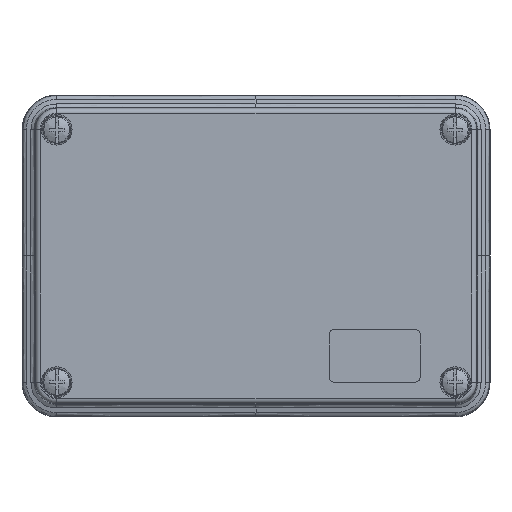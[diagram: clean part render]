
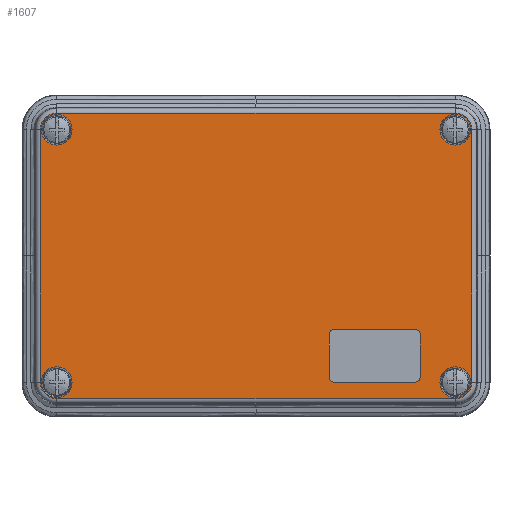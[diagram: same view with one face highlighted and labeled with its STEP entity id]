
A CAD part, top view. The second image highlights one B-rep face of the part: STEP entity #1607.
In plain terms, the highlighted planar face has unit normal (0, 0, 1).
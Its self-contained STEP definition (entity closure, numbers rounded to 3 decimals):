
#766=FACE_BOUND('',#3238,.T.);
#767=FACE_BOUND('',#3239,.T.);
#768=FACE_BOUND('',#3240,.T.);
#769=FACE_BOUND('',#3241,.T.);
#770=FACE_BOUND('',#3242,.T.);
#771=FACE_BOUND('',#3243,.T.);
#1059=CIRCLE('',#11943,1.5);
#1060=CIRCLE('',#11944,1.5);
#1061=CIRCLE('',#11945,1.5);
#1062=CIRCLE('',#11946,1.5);
#1063=CIRCLE('',#11947,4.219);
#1064=CIRCLE('',#11948,4.534);
#1065=CIRCLE('',#11949,4.534);
#1066=CIRCLE('',#11950,4.534);
#1067=CIRCLE('',#11951,4.534);
#1068=CIRCLE('',#11952,4.219);
#1069=CIRCLE('',#11953,4.219);
#1070=CIRCLE('',#11954,4.219);
#1607=ADVANCED_FACE('',(#766,#767,#768,#769,#770,#771),#2318,.F.);
#2318=PLANE('',#11955);
#3238=EDGE_LOOP('',(#4199,#4200,#4201,#4202,#4203,#4204,#4205,#4206));
#3239=EDGE_LOOP('',(#4207));
#3240=EDGE_LOOP('',(#4208,#4209,#4210,#4211,#4212,#4213,#4214,#4215));
#3241=EDGE_LOOP('',(#4216));
#3242=EDGE_LOOP('',(#4217));
#3243=EDGE_LOOP('',(#4218));
#4199=ORIENTED_EDGE('',*,*,#8643,.F.);
#4200=ORIENTED_EDGE('',*,*,#8644,.F.);
#4201=ORIENTED_EDGE('',*,*,#8645,.F.);
#4202=ORIENTED_EDGE('',*,*,#8646,.F.);
#4203=ORIENTED_EDGE('',*,*,#8647,.F.);
#4204=ORIENTED_EDGE('',*,*,#8648,.F.);
#4205=ORIENTED_EDGE('',*,*,#8649,.F.);
#4206=ORIENTED_EDGE('',*,*,#8650,.F.);
#4207=ORIENTED_EDGE('',*,*,#8651,.T.);
#4208=ORIENTED_EDGE('',*,*,#8652,.T.);
#4209=ORIENTED_EDGE('',*,*,#8653,.T.);
#4210=ORIENTED_EDGE('',*,*,#8654,.T.);
#4211=ORIENTED_EDGE('',*,*,#8655,.T.);
#4212=ORIENTED_EDGE('',*,*,#8656,.T.);
#4213=ORIENTED_EDGE('',*,*,#8657,.T.);
#4214=ORIENTED_EDGE('',*,*,#8658,.T.);
#4215=ORIENTED_EDGE('',*,*,#8659,.T.);
#4216=ORIENTED_EDGE('',*,*,#8660,.T.);
#4217=ORIENTED_EDGE('',*,*,#8661,.T.);
#4218=ORIENTED_EDGE('',*,*,#8662,.T.);
#7523=VERTEX_POINT('',#17095);
#7524=VERTEX_POINT('',#17096);
#7525=VERTEX_POINT('',#17098);
#7526=VERTEX_POINT('',#17100);
#7527=VERTEX_POINT('',#17102);
#7528=VERTEX_POINT('',#17104);
#7529=VERTEX_POINT('',#17106);
#7530=VERTEX_POINT('',#17108);
#7531=VERTEX_POINT('',#17111);
#7532=VERTEX_POINT('',#17113);
#7533=VERTEX_POINT('',#17114);
#7534=VERTEX_POINT('',#17116);
#7535=VERTEX_POINT('',#17118);
#7536=VERTEX_POINT('',#17120);
#7537=VERTEX_POINT('',#17122);
#7538=VERTEX_POINT('',#17124);
#7539=VERTEX_POINT('',#17126);
#7540=VERTEX_POINT('',#17129);
#7541=VERTEX_POINT('',#17131);
#7542=VERTEX_POINT('',#17133);
#8643=EDGE_CURVE('',#7523,#7524,#10263,.T.);
#8644=EDGE_CURVE('',#7525,#7523,#1059,.T.);
#8645=EDGE_CURVE('',#7526,#7525,#10264,.T.);
#8646=EDGE_CURVE('',#7527,#7526,#1060,.T.);
#8647=EDGE_CURVE('',#7528,#7527,#10265,.T.);
#8648=EDGE_CURVE('',#7529,#7528,#1061,.T.);
#8649=EDGE_CURVE('',#7530,#7529,#10266,.T.);
#8650=EDGE_CURVE('',#7524,#7530,#1062,.T.);
#8651=EDGE_CURVE('',#7531,#7531,#1063,.T.);
#8652=EDGE_CURVE('',#7532,#7533,#1064,.T.);
#8653=EDGE_CURVE('',#7533,#7534,#10267,.T.);
#8654=EDGE_CURVE('',#7534,#7535,#1065,.T.);
#8655=EDGE_CURVE('',#7535,#7536,#10268,.T.);
#8656=EDGE_CURVE('',#7536,#7537,#1066,.T.);
#8657=EDGE_CURVE('',#7537,#7538,#10269,.T.);
#8658=EDGE_CURVE('',#7538,#7539,#1067,.T.);
#8659=EDGE_CURVE('',#7539,#7532,#10270,.T.);
#8660=EDGE_CURVE('',#7540,#7540,#1068,.T.);
#8661=EDGE_CURVE('',#7541,#7541,#1069,.T.);
#8662=EDGE_CURVE('',#7542,#7542,#1070,.T.);
#10263=LINE('',#17094,#11109);
#10264=LINE('',#17099,#11110);
#10265=LINE('',#17103,#11111);
#10266=LINE('',#17107,#11112);
#10267=LINE('',#17115,#11113);
#10268=LINE('',#17119,#11114);
#10269=LINE('',#17123,#11115);
#10270=LINE('',#17127,#11116);
#11109=VECTOR('',#13294,1.);
#11110=VECTOR('',#13297,1.);
#11111=VECTOR('',#13300,1.);
#11112=VECTOR('',#13303,1.);
#11113=VECTOR('',#13310,1.);
#11114=VECTOR('',#13313,1.);
#11115=VECTOR('',#13316,1.);
#11116=VECTOR('',#13319,1.);
#11943=AXIS2_PLACEMENT_3D('',#17097,#13295,#13296);
#11944=AXIS2_PLACEMENT_3D('',#17101,#13298,#13299);
#11945=AXIS2_PLACEMENT_3D('',#17105,#13301,#13302);
#11946=AXIS2_PLACEMENT_3D('',#17109,#13304,#13305);
#11947=AXIS2_PLACEMENT_3D('',#17110,#13306,#13307);
#11948=AXIS2_PLACEMENT_3D('',#17112,#13308,#13309);
#11949=AXIS2_PLACEMENT_3D('',#17117,#13311,#13312);
#11950=AXIS2_PLACEMENT_3D('',#17121,#13314,#13315);
#11951=AXIS2_PLACEMENT_3D('',#17125,#13317,#13318);
#11952=AXIS2_PLACEMENT_3D('',#17128,#13320,#13321);
#11953=AXIS2_PLACEMENT_3D('',#17130,#13322,#13323);
#11954=AXIS2_PLACEMENT_3D('',#17132,#13324,#13325);
#11955=AXIS2_PLACEMENT_3D('',#17134,#13326,#13327);
#13294=DIRECTION('',(-1.,0.,0.));
#13295=DIRECTION('',(0.,0.,1.));
#13296=DIRECTION('',(-1.,0.,0.));
#13297=DIRECTION('',(0.,1.,0.));
#13298=DIRECTION('',(0.,0.,1.));
#13299=DIRECTION('',(-1.,0.,0.));
#13300=DIRECTION('',(1.,0.,0.));
#13301=DIRECTION('',(0.,0.,1.));
#13302=DIRECTION('',(-1.,0.,0.));
#13303=DIRECTION('',(0.,-1.,0.));
#13304=DIRECTION('',(0.,0.,1.));
#13305=DIRECTION('',(-1.,0.,0.));
#13306=DIRECTION('',(0.,0.,-1.));
#13307=DIRECTION('',(-1.,0.,0.));
#13308=DIRECTION('',(0.,0.,1.));
#13309=DIRECTION('',(-1.,0.,0.));
#13310=DIRECTION('',(0.,-1.,0.));
#13311=DIRECTION('',(0.,0.,1.));
#13312=DIRECTION('',(-1.,0.,0.));
#13313=DIRECTION('',(1.,0.,0.));
#13314=DIRECTION('',(0.,0.,1.));
#13315=DIRECTION('',(1.,0.,0.));
#13316=DIRECTION('',(0.,1.,0.));
#13317=DIRECTION('',(0.,0.,1.));
#13318=DIRECTION('',(1.,0.,0.));
#13319=DIRECTION('',(-1.,0.,0.));
#13320=DIRECTION('',(0.,0.,-1.));
#13321=DIRECTION('',(1.,0.,0.));
#13322=DIRECTION('',(0.,0.,-1.));
#13323=DIRECTION('',(-1.,0.,0.));
#13324=DIRECTION('',(0.,0.,-1.));
#13325=DIRECTION('',(1.,0.,0.));
#13326=DIRECTION('',(0.,0.,-1.));
#13327=DIRECTION('',(-1.,0.,0.));
#17094=CARTESIAN_POINT('',(-54.6,-20.104,56.3));
#17095=CARTESIAN_POINT('',(43.505,-20.104,56.3));
#17096=CARTESIAN_POINT('',(21.505,-20.104,56.3));
#17097=CARTESIAN_POINT('',(43.505,-21.604,56.3));
#17098=CARTESIAN_POINT('',(45.005,-21.604,56.3));
#17099=CARTESIAN_POINT('',(45.005,34.6,56.3));
#17100=CARTESIAN_POINT('',(45.005,-33.104,56.3));
#17101=CARTESIAN_POINT('',(43.505,-33.104,56.3));
#17102=CARTESIAN_POINT('',(43.505,-34.604,56.3));
#17103=CARTESIAN_POINT('',(-54.6,-34.604,56.3));
#17104=CARTESIAN_POINT('',(21.505,-34.604,56.3));
#17105=CARTESIAN_POINT('',(21.505,-33.104,56.3));
#17106=CARTESIAN_POINT('',(20.005,-33.104,56.3));
#17107=CARTESIAN_POINT('',(20.005,34.6,56.3));
#17108=CARTESIAN_POINT('',(20.005,-21.604,56.3));
#17109=CARTESIAN_POINT('',(21.505,-21.604,56.3));
#17110=CARTESIAN_POINT('',(-54.6,34.6,56.3));
#17111=CARTESIAN_POINT('',(-58.819,34.6,56.3));
#17112=CARTESIAN_POINT('',(-54.6,34.6,56.3));
#17113=CARTESIAN_POINT('',(-54.6,39.134,56.3));
#17114=CARTESIAN_POINT('',(-59.134,34.6,56.3));
#17115=CARTESIAN_POINT('',(-59.134,0.,56.3));
#17116=CARTESIAN_POINT('',(-59.134,-34.6,56.3));
#17117=CARTESIAN_POINT('',(-54.6,-34.6,56.3));
#17118=CARTESIAN_POINT('',(-54.6,-39.134,56.3));
#17119=CARTESIAN_POINT('',(-54.6,-39.134,56.3));
#17120=CARTESIAN_POINT('',(54.6,-39.134,56.3));
#17121=CARTESIAN_POINT('',(54.6,-34.6,56.3));
#17122=CARTESIAN_POINT('',(59.134,-34.6,56.3));
#17123=CARTESIAN_POINT('',(59.134,0.,56.3));
#17124=CARTESIAN_POINT('',(59.134,34.6,56.3));
#17125=CARTESIAN_POINT('',(54.6,34.6,56.3));
#17126=CARTESIAN_POINT('',(54.6,39.134,56.3));
#17127=CARTESIAN_POINT('',(-54.6,39.134,56.3));
#17128=CARTESIAN_POINT('',(54.6,34.6,56.3));
#17129=CARTESIAN_POINT('',(58.819,34.6,56.3));
#17130=CARTESIAN_POINT('',(-54.6,-34.6,56.3));
#17131=CARTESIAN_POINT('',(-58.819,-34.6,56.3));
#17132=CARTESIAN_POINT('',(54.6,-34.6,56.3));
#17133=CARTESIAN_POINT('',(58.819,-34.6,56.3));
#17134=CARTESIAN_POINT('',(-54.6,34.6,56.3));
